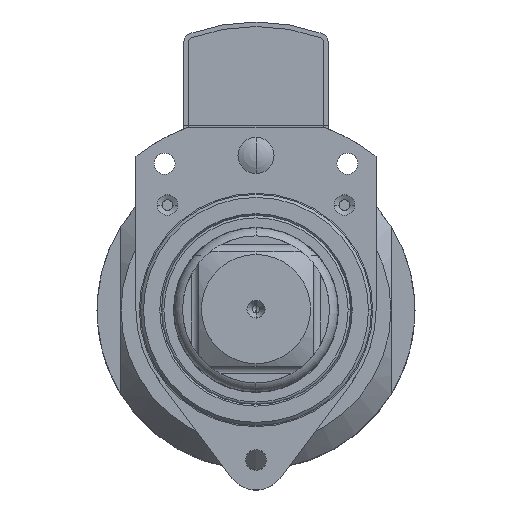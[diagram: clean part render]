
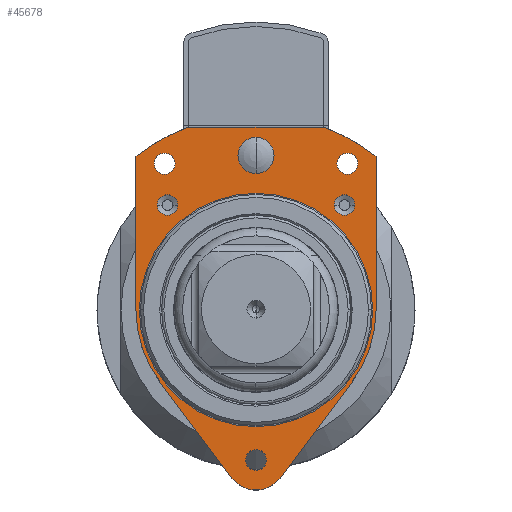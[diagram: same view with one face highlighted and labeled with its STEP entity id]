
A CAD part, top view. The second image highlights one B-rep face of the part: STEP entity #45678.
In plain terms, the highlighted planar face has unit normal (0, 0, 1).
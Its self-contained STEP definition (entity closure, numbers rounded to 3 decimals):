
#7141=DIRECTION('',(-1.,0.,0.));
#7142=VECTOR('',#7141,44.9);
#7143=CARTESIAN_POINT('',(22.45,61.,-13.));
#7144=LINE('',#7143,#7142);
#7145=CARTESIAN_POINT('',(0.,0.,-13.));
#7146=DIRECTION('',(0.,0.,1.));
#7147=DIRECTION('',(0.615,0.788,0.));
#7148=AXIS2_PLACEMENT_3D('',#7145,#7146,#7147);
#7150=DIRECTION('',(0.,1.,0.));
#7151=VECTOR('',#7150,51.235);
#7152=CARTESIAN_POINT('',(40.,0.,-13.));
#7153=LINE('',#7152,#7151);
#7154=CARTESIAN_POINT('',(0.,0.,-13.));
#7155=DIRECTION('',(0.,0.,1.));
#7156=DIRECTION('',(0.8,-0.6,0.));
#7157=AXIS2_PLACEMENT_3D('',#7154,#7155,#7156);
#7159=DIRECTION('',(0.6,0.8,0.));
#7160=VECTOR('',#7159,40.);
#7161=CARTESIAN_POINT('',(8.,-56.,-13.));
#7162=LINE('',#7161,#7160);
#7163=CARTESIAN_POINT('',(0.,-50.,-13.));
#7164=DIRECTION('',(0.,0.,1.));
#7165=DIRECTION('',(-0.8,-0.6,0.));
#7166=AXIS2_PLACEMENT_3D('',#7163,#7164,#7165);
#7168=DIRECTION('',(0.6,-0.8,0.));
#7169=VECTOR('',#7168,40.);
#7170=CARTESIAN_POINT('',(-32.,-24.,-13.));
#7171=LINE('',#7170,#7169);
#7172=CARTESIAN_POINT('',(0.,0.,-13.));
#7173=DIRECTION('',(0.,0.,1.));
#7174=DIRECTION('',(-1.,0.,0.));
#7175=AXIS2_PLACEMENT_3D('',#7172,#7173,#7174);
#7177=DIRECTION('',(0.,-1.,0.));
#7178=VECTOR('',#7177,51.235);
#7179=CARTESIAN_POINT('',(-40.,51.235,-13.));
#7180=LINE('',#7179,#7178);
#7181=CARTESIAN_POINT('',(0.,0.,-13.));
#7182=DIRECTION('',(0.,0.,1.));
#7183=DIRECTION('',(-0.345,0.938,0.));
#7184=AXIS2_PLACEMENT_3D('',#7181,#7182,#7183);
#7186=CARTESIAN_POINT('',(0.,-50.,-13.));
#7187=DIRECTION('',(0.,0.,1.));
#7188=DIRECTION('',(-1.,0.,0.));
#7189=AXIS2_PLACEMENT_3D('',#7186,#7187,#7188);
#7191=CARTESIAN_POINT('',(0.,-50.,-13.));
#7192=DIRECTION('',(0.,0.,1.));
#7193=DIRECTION('',(1.,0.,0.));
#7194=AXIS2_PLACEMENT_3D('',#7191,#7192,#7193);
#7196=CARTESIAN_POINT('',(30.47,48.763,-13.));
#7197=DIRECTION('',(0.,0.,1.));
#7198=DIRECTION('',(-1.,0.,0.));
#7199=AXIS2_PLACEMENT_3D('',#7196,#7197,#7198);
#7201=CARTESIAN_POINT('',(30.47,48.763,-13.));
#7202=DIRECTION('',(0.,0.,1.));
#7203=DIRECTION('',(1.,0.,0.));
#7204=AXIS2_PLACEMENT_3D('',#7201,#7202,#7203);
#7206=CARTESIAN_POINT('',(-30.47,48.763,-13.));
#7207=DIRECTION('',(0.,0.,1.));
#7208=DIRECTION('',(-1.,0.,0.));
#7209=AXIS2_PLACEMENT_3D('',#7206,#7207,#7208);
#7211=CARTESIAN_POINT('',(-30.47,48.763,-13.));
#7212=DIRECTION('',(0.,0.,1.));
#7213=DIRECTION('',(1.,0.,0.));
#7214=AXIS2_PLACEMENT_3D('',#7211,#7212,#7213);
#7216=CARTESIAN_POINT('',(-29.5,35.,-13.));
#7217=DIRECTION('',(0.,0.,1.));
#7218=DIRECTION('',(-1.,0.,0.));
#7219=AXIS2_PLACEMENT_3D('',#7216,#7217,#7218);
#7221=CARTESIAN_POINT('',(-29.5,35.,-13.));
#7222=DIRECTION('',(0.,0.,1.));
#7223=DIRECTION('',(1.,0.,0.));
#7224=AXIS2_PLACEMENT_3D('',#7221,#7222,#7223);
#7226=CARTESIAN_POINT('',(29.5,35.,-13.));
#7227=DIRECTION('',(0.,0.,1.));
#7228=DIRECTION('',(-1.,0.,0.));
#7229=AXIS2_PLACEMENT_3D('',#7226,#7227,#7228);
#7231=CARTESIAN_POINT('',(29.5,35.,-13.));
#7232=DIRECTION('',(0.,0.,1.));
#7233=DIRECTION('',(1.,0.,0.));
#7234=AXIS2_PLACEMENT_3D('',#7231,#7232,#7233);
#7236=CARTESIAN_POINT('',(0.,0.,-13.));
#7237=DIRECTION('',(0.,0.,1.));
#7238=DIRECTION('',(-1.,0.,0.));
#7239=AXIS2_PLACEMENT_3D('',#7236,#7237,#7238);
#7241=CARTESIAN_POINT('',(0.,0.,-13.));
#7242=DIRECTION('',(0.,0.,1.));
#7243=DIRECTION('',(1.,0.,0.));
#7244=AXIS2_PLACEMENT_3D('',#7241,#7242,#7243);
#7246=CARTESIAN_POINT('',(0.,51.5,-13.));
#7247=DIRECTION('',(0.,0.,1.));
#7248=DIRECTION('',(0.,1.,0.));
#7249=AXIS2_PLACEMENT_3D('',#7246,#7247,#7248);
#7251=CARTESIAN_POINT('',(0.,51.5,-13.));
#7252=DIRECTION('',(0.,0.,1.));
#7253=DIRECTION('',(0.,-1.,0.));
#7254=AXIS2_PLACEMENT_3D('',#7251,#7252,#7253);
#34928=CARTESIAN_POINT('',(22.45,61.,-13.));
#34929=CARTESIAN_POINT('',(-22.45,61.,-13.));
#34930=VERTEX_POINT('',#34928);
#34931=VERTEX_POINT('',#34929);
#34932=CARTESIAN_POINT('',(-40.,51.235,-13.));
#34933=VERTEX_POINT('',#34932);
#34934=CARTESIAN_POINT('',(-40.,0.,-13.));
#34935=VERTEX_POINT('',#34934);
#34936=CARTESIAN_POINT('',(-32.,-24.,-13.));
#34937=VERTEX_POINT('',#34936);
#34938=CARTESIAN_POINT('',(-8.,-56.,-13.));
#34939=VERTEX_POINT('',#34938);
#34940=CARTESIAN_POINT('',(8.,-56.,-13.));
#34941=VERTEX_POINT('',#34940);
#34942=CARTESIAN_POINT('',(32.,-24.,-13.));
#34943=VERTEX_POINT('',#34942);
#34944=CARTESIAN_POINT('',(40.,0.,-13.));
#34945=VERTEX_POINT('',#34944);
#34946=CARTESIAN_POINT('',(40.,51.235,-13.));
#34947=VERTEX_POINT('',#34946);
#34952=CARTESIAN_POINT('',(-3.5,-50.,-13.));
#34953=CARTESIAN_POINT('',(3.5,-50.,-13.));
#34954=VERTEX_POINT('',#34952);
#34955=VERTEX_POINT('',#34953);
#34960=CARTESIAN_POINT('',(26.97,48.763,-13.));
#34961=CARTESIAN_POINT('',(33.97,48.763,-13.));
#34962=VERTEX_POINT('',#34960);
#34963=VERTEX_POINT('',#34961);
#34968=CARTESIAN_POINT('',(-33.97,48.763,-13.));
#34969=CARTESIAN_POINT('',(-26.97,48.763,-13.));
#34970=VERTEX_POINT('',#34968);
#34971=VERTEX_POINT('',#34969);
#34972=CARTESIAN_POINT('',(-32.9,35.,-13.));
#34973=CARTESIAN_POINT('',(-26.1,35.,-13.));
#34974=VERTEX_POINT('',#34972);
#34975=VERTEX_POINT('',#34973);
#34976=CARTESIAN_POINT('',(26.1,35.,-13.));
#34977=CARTESIAN_POINT('',(32.9,35.,-13.));
#34978=VERTEX_POINT('',#34976);
#34979=VERTEX_POINT('',#34977);
#35038=CARTESIAN_POINT('',(-38.9,0.,-13.));
#35039=CARTESIAN_POINT('',(38.9,0.,-13.));
#35040=VERTEX_POINT('',#35038);
#35041=VERTEX_POINT('',#35039);
#35408=CARTESIAN_POINT('',(0.,57.5,-13.));
#35409=CARTESIAN_POINT('',(0.,45.5,-13.));
#35410=VERTEX_POINT('',#35408);
#35411=VERTEX_POINT('',#35409);
#45619=CARTESIAN_POINT('',(0.,0.,-13.));
#45620=DIRECTION('',(0.,0.,1.));
#45621=DIRECTION('',(-1.,0.,0.));
#45622=AXIS2_PLACEMENT_3D('',#45619,#45620,#45621);
#45623=PLANE('',#45622);
#45624=ORIENTED_EDGE('',*,*,#43227,.F.);
#45625=ORIENTED_EDGE('',*,*,#43262,.F.);
#45626=ORIENTED_EDGE('',*,*,#45481,.F.);
#45627=ORIENTED_EDGE('',*,*,#45502,.F.);
#45628=ORIENTED_EDGE('',*,*,#45523,.F.);
#45629=ORIENTED_EDGE('',*,*,#45544,.F.);
#45630=ORIENTED_EDGE('',*,*,#45565,.F.);
#45631=ORIENTED_EDGE('',*,*,#45586,.F.);
#45632=ORIENTED_EDGE('',*,*,#45606,.F.);
#45633=ORIENTED_EDGE('',*,*,#43204,.F.);
#45634=EDGE_LOOP('',(#45624,#45625,#45626,#45627,#45628,#45629,#45630,#45631,
#45632,#45633));
#45635=FACE_OUTER_BOUND('',#45634,.F.);
#45637=ORIENTED_EDGE('',*,*,#45636,.T.);
#45639=ORIENTED_EDGE('',*,*,#45638,.T.);
#45640=EDGE_LOOP('',(#45637,#45639));
#45641=FACE_BOUND('',#45640,.F.);
#45643=ORIENTED_EDGE('',*,*,#45642,.T.);
#45645=ORIENTED_EDGE('',*,*,#45644,.T.);
#45646=EDGE_LOOP('',(#45643,#45645));
#45647=FACE_BOUND('',#45646,.F.);
#45649=ORIENTED_EDGE('',*,*,#45648,.T.);
#45651=ORIENTED_EDGE('',*,*,#45650,.T.);
#45652=EDGE_LOOP('',(#45649,#45651));
#45653=FACE_BOUND('',#45652,.F.);
#45655=ORIENTED_EDGE('',*,*,#45654,.T.);
#45657=ORIENTED_EDGE('',*,*,#45656,.T.);
#45658=EDGE_LOOP('',(#45655,#45657));
#45659=FACE_BOUND('',#45658,.F.);
#45661=ORIENTED_EDGE('',*,*,#45660,.T.);
#45663=ORIENTED_EDGE('',*,*,#45662,.T.);
#45664=EDGE_LOOP('',(#45661,#45663));
#45665=FACE_BOUND('',#45664,.F.);
#45667=ORIENTED_EDGE('',*,*,#45666,.T.);
#45669=ORIENTED_EDGE('',*,*,#45668,.T.);
#45670=EDGE_LOOP('',(#45667,#45669));
#45671=FACE_BOUND('',#45670,.F.);
#45673=ORIENTED_EDGE('',*,*,#45672,.T.);
#45675=ORIENTED_EDGE('',*,*,#45674,.T.);
#45676=EDGE_LOOP('',(#45673,#45675));
#45677=FACE_BOUND('',#45676,.F.);
#7149=CIRCLE('',#7148,65.);
#7158=CIRCLE('',#7157,40.);
#7167=CIRCLE('',#7166,10.);
#7176=CIRCLE('',#7175,40.);
#7185=CIRCLE('',#7184,65.);
#7190=CIRCLE('',#7189,3.5);
#7195=CIRCLE('',#7194,3.5);
#7200=CIRCLE('',#7199,3.5);
#7205=CIRCLE('',#7204,3.5);
#7210=CIRCLE('',#7209,3.5);
#7215=CIRCLE('',#7214,3.5);
#7220=CIRCLE('',#7219,3.4);
#7225=CIRCLE('',#7224,3.4);
#7230=CIRCLE('',#7229,3.4);
#7235=CIRCLE('',#7234,3.4);
#7240=CIRCLE('',#7239,38.9);
#7245=CIRCLE('',#7244,38.9);
#7250=CIRCLE('',#7249,6.);
#7255=CIRCLE('',#7254,6.);
#43204=EDGE_CURVE('',#34931,#34933,#7185,.T.);
#43227=EDGE_CURVE('',#34930,#34931,#7144,.T.);
#43262=EDGE_CURVE('',#34947,#34930,#7149,.T.);
#45481=EDGE_CURVE('',#34945,#34947,#7153,.T.);
#45502=EDGE_CURVE('',#34943,#34945,#7158,.T.);
#45523=EDGE_CURVE('',#34941,#34943,#7162,.T.);
#45544=EDGE_CURVE('',#34939,#34941,#7167,.T.);
#45565=EDGE_CURVE('',#34937,#34939,#7171,.T.);
#45586=EDGE_CURVE('',#34935,#34937,#7176,.T.);
#45606=EDGE_CURVE('',#34933,#34935,#7180,.T.);
#45636=EDGE_CURVE('',#34954,#34955,#7190,.T.);
#45638=EDGE_CURVE('',#34955,#34954,#7195,.T.);
#45642=EDGE_CURVE('',#34962,#34963,#7200,.T.);
#45644=EDGE_CURVE('',#34963,#34962,#7205,.T.);
#45648=EDGE_CURVE('',#34970,#34971,#7210,.T.);
#45650=EDGE_CURVE('',#34971,#34970,#7215,.T.);
#45654=EDGE_CURVE('',#34974,#34975,#7220,.T.);
#45656=EDGE_CURVE('',#34975,#34974,#7225,.T.);
#45660=EDGE_CURVE('',#34978,#34979,#7230,.T.);
#45662=EDGE_CURVE('',#34979,#34978,#7235,.T.);
#45666=EDGE_CURVE('',#35040,#35041,#7240,.T.);
#45668=EDGE_CURVE('',#35041,#35040,#7245,.T.);
#45672=EDGE_CURVE('',#35410,#35411,#7250,.T.);
#45674=EDGE_CURVE('',#35411,#35410,#7255,.T.);
#45678=ADVANCED_FACE('',(#45635,#45641,#45647,#45653,#45659,#45665,#45671,
#45677),#45623,.T.);
